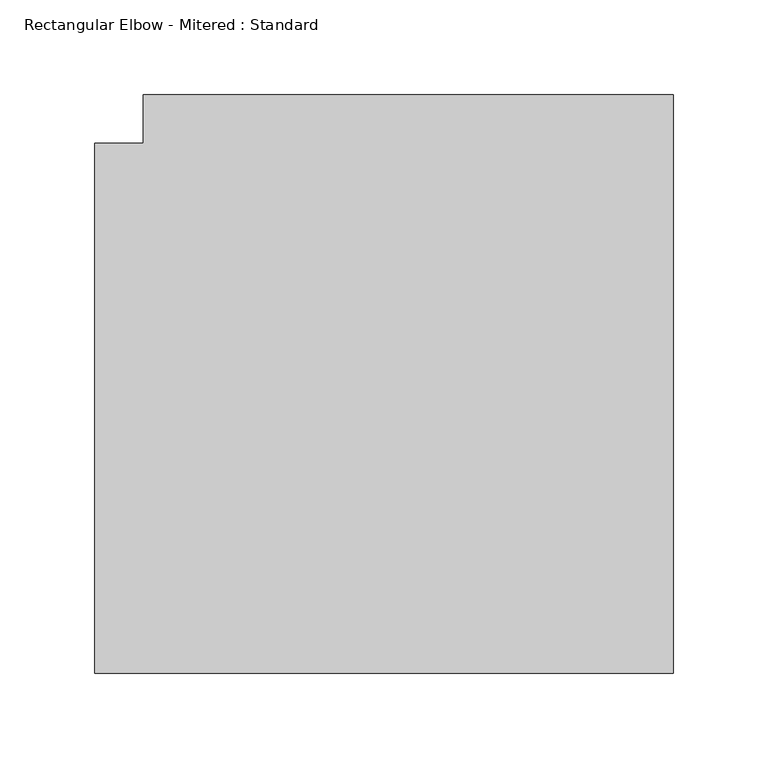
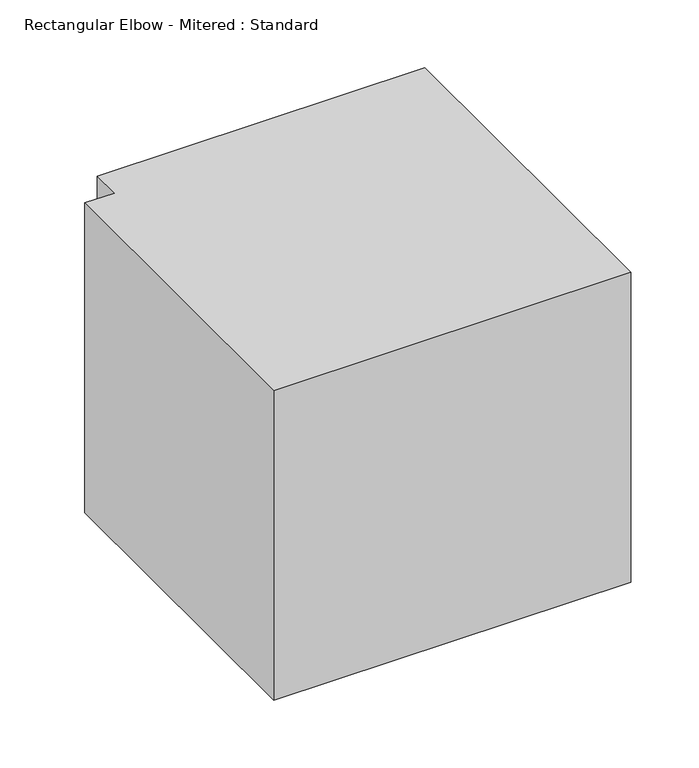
"""IFC4 building model written with IfcOpenShell, lengths in millimetres: duct fitting geometry, Rectangular Elbow - Mitered : Standard."""

from ifc_helpers import new_model, si_unit, frame, origin, place, context, project, spatial, polyline, outline, extrude, source, transform, mapped, element, save


def rectangular_elbow_mitered_standard_c807a2e4(model_context):
    return source(origin(), model_context, "Body", "SweptSolid", [
        extrude(outline(polyline([(-165.1, -139.7), (-165.1, 139.7), (-139.7, 139.7), (-139.7, 165.1), (139.7, 165.1), (139.7, -139.7), (-165.1, -139.7)])), frame((0.0, 0.0, -139.7), z_axis=(0.0, 0.0, 1.0), x_axis=(1.0, 0.0, 0.0)), (0.0, 0.0, 1.0), 279.4),
    ])


if __name__ == "__main__":
    model = new_model("IFC4")
    model_context = context("Model", 3, world=origin())
    ifc_project = project(units=[si_unit("LENGTHUNIT", "METRE", prefix="MILLI")], contexts=[model_context])
    site = spatial("IfcSite", under=ifc_project)
    building = spatial("IfcBuilding", under=site)
    placement = place(None, origin())
    rectangular_elbow_mitered_standard_shape = rectangular_elbow_mitered_standard_c807a2e4(model_context)
    element("IfcDuctFitting", 1, ObjectType="Rectangular Elbow - Mitered : Standard", at=placement, inside=building, context=model_context, shape_type="MappedRepresentation", body=[
        mapped(rectangular_elbow_mitered_standard_shape, transform((0.0, 0.0, 0.0), x_axis=(1.0, 0.0, 0.0), y_axis=(0.0, 1.0, 0.0), z_axis=(0.0, 0.0, 1.0))),
    ])
    save(model, "model.ifc")
